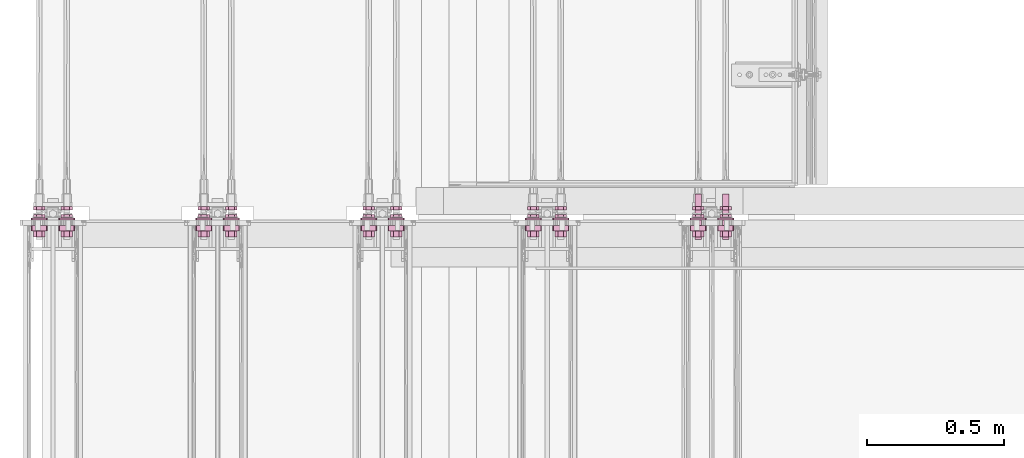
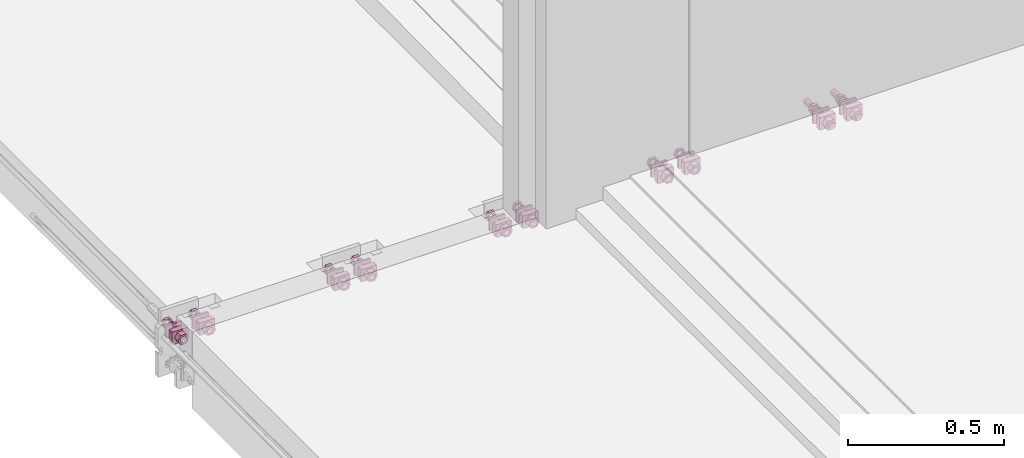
# One storey, part 15 of 17: 52 furnishings.
"""IFC2X3 building model written with IfcOpenShell, lengths in metres."""

import ifcopenshell
import ifcopenshell.guid

model = None  # the IFC model being written
_history = None  # IfcOwnerHistory: only IFC2X3 demands one
_inside = {}  # id of a spatial element -> (the spatial element, [elements in it])
_under = {}  # id of a project, library or spatial element -> (it, [spatial elements below it])
_declared = {}  # id of a project -> (the project, [libraries it declares])
_typed = {}  # id of a type object -> (the type object, [elements of that type])
_made_of = {}  # id of a material, layer set ... -> (it, [elements and type objects made of it])


def new_model(schema):
    """Start an empty IFC model of exactly this schema.

    Asked for "IFC4X3", IfcOpenShell would pick the latest addendum, in which some entities
    have other attributes; the version numbers below select the first issue.
    IFC2X3 requires an IfcOwnerHistory on every rooted entity: one is made here for all.
    """
    global model, _history
    if schema == "IFC4X3":
        model = ifcopenshell.file(schema_version=(4, 3, 0, 0))
    else:
        model = ifcopenshell.file(schema=schema)
    _inside.clear()
    _under.clear()
    _declared.clear()
    _typed.clear()
    _made_of.clear()
    _history = None
    if model.schema == "IFC2X3":
        org = make("IfcOrganization", Name="unknown")
        user = make(
            "IfcPersonAndOrganization",
            ThePerson=make("IfcPerson", FamilyName="unknown"),
            TheOrganization=org,
        )
        app = make(
            "IfcApplication",
            ApplicationDeveloper=org,
            Version="unknown",
            ApplicationFullName="unknown",
            ApplicationIdentifier="unknown",
        )
        _history = make(
            "IfcOwnerHistory",
            OwningUser=user,
            OwningApplication=app,
            ChangeAction="ADDED",
            CreationDate=0,
        )
    return model


def make(cls, **values):
    """One entity of the class cls with the attributes given. An attribute that is None is left unset."""
    return model.create_entity(
        cls, **{name: value for name, value in values.items() if value is not None}
    )


def entity(cls, *values):
    """Any entity or typed value of the class cls, its attributes in the order of the schema. None: left unset."""
    e = model.create_entity(cls)
    for i, value in enumerate(values):
        if value is not None:
            e[i] = value
    return e


def rooted(cls, **values):
    """An entity with a GlobalId (a new one), such as an element, a storey or a relation."""
    return make(cls, GlobalId=ifcopenshell.guid.new(), OwnerHistory=_history, **values)


def si_unit(unit_type, name, prefix=None):
    """IfcSIUnit, for example si_unit("LENGTHUNIT", "METRE", prefix="MILLI")."""
    return make("IfcSIUnit", UnitType=unit_type, Prefix=prefix, Name=name)


def converted_unit(unit_type, name, factor, base, dimensions=None, offset=None):
    """IfcConversionBasedUnit, such as the inch: factor (a typed value) times the base unit."""
    return make(
        "IfcConversionBasedUnit"
        if offset is None
        else "IfcConversionBasedUnitWithOffset",
        ConversionOffset=offset,
        Dimensions=None
        if dimensions is None
        else entity("IfcDimensionalExponents", *dimensions),
        UnitType=unit_type,
        Name=name,
        ConversionFactor=make(
            "IfcMeasureWithUnit", ValueComponent=factor, UnitComponent=base
        ),
    )


def derived_unit(unit_type, elements):
    """IfcDerivedUnit: a product of units, each with its exponent."""
    return make(
        "IfcDerivedUnit",
        Elements=[
            make("IfcDerivedUnitElement", Unit=unit, Exponent=power)
            for unit, power in elements
        ],
        UnitType=unit_type,
    )


def assignment(units):
    """IfcUnitAssignment: the units of a project."""
    return None if units is None else make("IfcUnitAssignment", Units=units)


def point(xyz):
    """IfcCartesianPoint."""
    return None if xyz is None else make("IfcCartesianPoint", Coordinates=xyz)


def direction(xyz):
    """IfcDirection."""
    return None if xyz is None else make("IfcDirection", DirectionRatios=xyz)


def frame(location, z_axis=None, x_axis=None):
    """IfcAxis2Placement3D, a coordinate frame: its origin and axes. An axis left out is left unset."""
    return make(
        "IfcAxis2Placement3D",
        Location=point(location),
        Axis=direction(z_axis),
        RefDirection=direction(x_axis),
    )


def frame_2d(location, x_axis=None):
    """IfcAxis2Placement2D, a coordinate frame in the plane: its origin and x axis."""
    return make(
        "IfcAxis2Placement2D", Location=point(location), RefDirection=direction(x_axis)
    )


def origin():
    """The frame at (0, 0, 0) with its axes left unset."""
    return frame((0.0, 0.0, 0.0))


def place(relative_to, where):
    """IfcLocalPlacement: puts the frame where relative to a parent placement (None: the world)."""
    return make(
        "IfcLocalPlacement", PlacementRelTo=relative_to, RelativePlacement=where
    )


def context(
    kind, dimensions, precision=None, world=None, true_north=None, identifier=None
):
    """IfcGeometricRepresentationContext, for example the 3D "Model" context."""
    return make(
        "IfcGeometricRepresentationContext",
        ContextIdentifier=identifier,
        ContextType=kind,
        CoordinateSpaceDimension=dimensions,
        Precision=precision,
        WorldCoordinateSystem=world,
        TrueNorth=true_north,
    )


def subcontext(parent, identifier, kind, view, scale=None):
    """IfcGeometricRepresentationSubContext, for example "Body" below "Model"."""
    return make(
        "IfcGeometricRepresentationSubContext",
        ContextIdentifier=identifier,
        ContextType=kind,
        ParentContext=parent,
        TargetScale=scale,
        TargetView=view,
    )


def project(units=None, contexts=None):
    """IfcProject with its units and contexts."""
    return rooted(
        "IfcProject",
        Name="project",
        RepresentationContexts=contexts,
        UnitsInContext=assignment(units),
    )


def spatial(cls, under=None, at=None, **own):
    """A site, building, storey or space (cls), placed at a placement, below another one or the project."""
    s = rooted(cls, ObjectPlacement=at, **own)
    if under is not None:
        _under.setdefault(under.id(), (under, []))[1].append(s)
    return s


def polyline(points):
    """IfcPolyline through the points."""
    return make("IfcPolyline", Points=[point(p) for p in points])


def circle_curve(where, radius):
    """IfcCircle in the frame where."""
    return make("IfcCircle", Position=where, Radius=radius)


def parameter(value):
    """IfcParameterValue: where a trimmed curve begins or ends, as a parameter of its basis curve."""
    return model.create_entity("IfcParameterValue", value)


def trimmed(basis, trim1, trim2, sense, master):
    """IfcTrimmedCurve: the piece of a basis curve between two trims."""
    return make(
        "IfcTrimmedCurve",
        BasisCurve=basis,
        Trim1=trim1,
        Trim2=trim2,
        SenseAgreement=sense,
        MasterRepresentation=master,
    )


def segment(curve, same_sense, transition):
    """IfcCompositeCurveSegment."""
    return make(
        "IfcCompositeCurveSegment",
        Transition=transition,
        SameSense=same_sense,
        ParentCurve=curve,
    )


def composite_curve(segments, self_intersect=None):
    """IfcCompositeCurve: segments joined end to end."""
    return make("IfcCompositeCurve", Segments=segments, SelfIntersect=self_intersect)


def profile(cls, at=None, kind="AREA", **sizes):
    """A parametric profile (cls). Its sizes go by their IFC names, for example OverallWidth=200.0."""
    return make(cls, ProfileType=kind, Position=at, **sizes)


def circle(**sizes):
    """IfcCircleProfileDef."""
    return profile("IfcCircleProfileDef", **sizes)


def outline(outer, holes=None, kind="AREA"):
    """IfcArbitraryClosedProfileDef: a profile drawn as a closed curve; with holes, ...WithVoids."""
    if holes is None:
        return make("IfcArbitraryClosedProfileDef", ProfileType=kind, OuterCurve=outer)
    return make(
        "IfcArbitraryProfileDefWithVoids",
        ProfileType=kind,
        OuterCurve=outer,
        InnerCurves=holes,
    )


def extrude(swept, where, along, depth):
    """IfcExtrudedAreaSolid: the profile swept, set in the frame where, extruded along a direction by depth."""
    return make(
        "IfcExtrudedAreaSolid",
        SweptArea=swept,
        Position=where,
        ExtrudedDirection=direction(along),
        Depth=depth,
    )


def shape(context_of_items, identifier, shape_type, items):
    """IfcShapeRepresentation: the items that make up one representation, for example the "Body"."""
    return make(
        "IfcShapeRepresentation",
        ContextOfItems=context_of_items,
        RepresentationIdentifier=identifier,
        RepresentationType=shape_type,
        Items=items,
    )


def source(mapping_origin, context_of_items, identifier, shape_type, items):
    """IfcRepresentationMap: a shape defined once, which mapped items show again and again."""
    return make(
        "IfcRepresentationMap",
        MappingOrigin=mapping_origin,
        MappedRepresentation=shape(context_of_items, identifier, shape_type, items),
    )


def transform(
    local_origin,
    x_axis=None,
    y_axis=None,
    z_axis=None,
    scale=None,
    scale2=None,
    scale3=None,
    uniform=True,
):
    """IfcCartesianTransformationOperator3D, or its non-uniform kind. x_axis, y_axis, z_axis: its Axis1, 2, 3."""
    if uniform:
        return make(
            "IfcCartesianTransformationOperator3D",
            Axis1=direction(x_axis),
            Axis2=direction(y_axis),
            LocalOrigin=point(local_origin),
            Scale=scale,
            Axis3=direction(z_axis),
        )
    return make(
        "IfcCartesianTransformationOperator3DnonUniform",
        Axis1=direction(x_axis),
        Axis2=direction(y_axis),
        LocalOrigin=point(local_origin),
        Scale=scale,
        Axis3=direction(z_axis),
        Scale2=scale2,
        Scale3=scale3,
    )


def mapped(mapping_source, mapping_target):
    """IfcMappedItem: shows the shape of a source again, moved by a transform."""
    return make(
        "IfcMappedItem", MappingSource=mapping_source, MappingTarget=mapping_target
    )


def material(Name=None, Category=None):
    """IfcMaterial."""
    return make("IfcMaterial", Name=Name, Category=Category)


def made_of(thing, what):
    """Note that an element or type object is made of a material, layer set ...; save() writes the relation."""
    if what is not None:
        _made_of.setdefault(what.id(), (what, []))[1].append(thing)
    return thing


def type_object(cls, material=None, **own):
    """A type object (cls), such as IfcWallType, which elements share."""
    return made_of(rooted(cls, **own), material)


def type_shapes(of_type, sources):
    """Give a type object the sources (RepresentationMaps) that its elements show as mapped items."""
    of_type.RepresentationMaps = sources


def element(
    cls,
    number,
    at=None,
    inside=None,
    cuts=None,
    type_object=None,
    material=None,
    context=None,
    identifier="Body",
    shape_type=None,
    held_by="IfcProductDefinitionShape",
    body=None,
    shapes=None,
    **own,
):
    """One element of the class cls, such as IfcWall. Its Tag is "e" and its number.

    at: its placement. inside: the storey or other place that contains it. cuts: it is an
    opening in that element (IfcRelVoidsElement). A single representation is given by context,
    identifier, shape_type and body (its items); several are given by shapes. held_by: the class
    of the entity that holds the representations. save() writes the other relations.
    """
    e = rooted(cls, Tag="e%d" % number, ObjectPlacement=at, **own)
    if body is not None:
        shapes = [shape(context, identifier, shape_type, body)]
    if shapes is not None:
        e.Representation = make(held_by, Representations=shapes)
    if inside is not None:
        _inside.setdefault(inside.id(), (inside, []))[1].append(e)
    if cuts is not None:
        rooted(
            "IfcRelVoidsElement", RelatingBuildingElement=cuts, RelatedOpeningElement=e
        )
    if type_object is not None:
        _typed.setdefault(type_object.id(), (type_object, []))[1].append(e)
    return made_of(e, material)


def aggregate(whole, parts):
    """IfcRelAggregates: a whole, such as a stair, and the parts it consists of."""
    return rooted("IfcRelAggregates", RelatingObject=whole, RelatedObjects=parts)


def save(model, path):
    """Write the relations noted so far, then the file.

    IfcRelAggregates (storeys below a building ...), IfcRelContainedInSpatialStructure (elements
    in a storey), IfcRelDefinesByType, IfcRelAssociatesMaterial and IfcRelDeclares: one each for
    every whole, place, type object, material and project.
    """
    for whole, parts in _under.values():
        aggregate(whole, parts)
    for where, things in _inside.values():
        rooted(
            "IfcRelContainedInSpatialStructure",
            RelatedElements=things,
            RelatingStructure=where,
        )
    for kind, things in _typed.values():
        rooted("IfcRelDefinesByType", RelatedObjects=things, RelatingType=kind)
    for what, things in _made_of.values():
        rooted("IfcRelAssociatesMaterial", RelatedObjects=things, RelatingMaterial=what)
    for by, libraries in _declared.values():
        rooted("IfcRelDeclares", RelatingContext=by, RelatedDefinitions=libraries)
    model.write(path)


model = new_model("IFC2X3")

# Units and contexts
model_context = context("Model", 3, precision=1e-05, world=origin(), true_north=direction((6.123031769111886e-17, 1.0)))
plan_context = context("Plan", 3, precision=1e-05, world=origin(), true_north=direction((6.123031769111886e-17, 1.0)))
body_context = subcontext(model_context, "Body", "Model", "MODEL_VIEW")
ifc_project = project(units=[si_unit("LENGTHUNIT", "METRE"), si_unit("AREAUNIT", "SQUARE_METRE"), converted_unit("PLANEANGLEUNIT", "DEGREE", entity("IfcPlaneAngleMeasure", 0.017453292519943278), si_unit("PLANEANGLEUNIT", "RADIAN"), dimensions=[0, 0, 0, 0, 0, 0, 0]), si_unit("VOLUMEUNIT", "CUBIC_METRE"), derived_unit("THERMALTRANSMITTANCEUNIT", [(si_unit("MASSUNIT", "GRAM", prefix="KILO"), 1), (si_unit("THERMODYNAMICTEMPERATUREUNIT", "KELVIN"), -1), (si_unit("TIMEUNIT", "SECOND"), -3)]), derived_unit("USERDEFINED", [(si_unit("MASSUNIT", "GRAM", prefix="KILO"), 1), (si_unit("THERMODYNAMICTEMPERATUREUNIT", "KELVIN"), -1), (si_unit("TIMEUNIT", "SECOND"), -2)]), derived_unit("THERMALRESISTANCEUNIT", [(si_unit("MASSUNIT", "GRAM", prefix="KILO"), -1), (si_unit("TIMEUNIT", "SECOND"), 3), (si_unit("THERMODYNAMICTEMPERATUREUNIT", "KELVIN"), 1)]), si_unit("PRESSUREUNIT", "PASCAL"), derived_unit("MASSDENSITYUNIT", [(si_unit("MASSUNIT", "GRAM", prefix="KILO"), 1), (si_unit("LENGTHUNIT", "METRE"), -3)]), derived_unit("VAPORPERMEABILITYUNIT", [(si_unit("LENGTHUNIT", "METRE"), -1), (si_unit("TIMEUNIT", "SECOND"), 1)]), derived_unit("USERDEFINED", [(si_unit("MASSUNIT", "GRAM", prefix="KILO"), 1), (si_unit("TIMEUNIT", "SECOND"), -3), (si_unit("LENGTHUNIT", "METRE"), 3), (si_unit("ELECTRICCURRENTUNIT", "AMPERE"), -2)])], contexts=[model_context, plan_context])

# Site, building, storey
site_placement = place(None, origin())
site = spatial("IfcSite", under=ifc_project, at=site_placement, Name="Default", CompositionType="ELEMENT")
building_placement = place(site_placement, origin())
building = spatial("IfcBuilding", under=site, at=building_placement, CompositionType="ELEMENT")
storey_placement = place(building_placement, origin())
storey = spatial("IfcBuildingStorey", under=building, at=storey_placement, Name="L0", CompositionType="ELEMENT", Elevation=0.0)

# Furnishings
ifc_material = material(Name="REC_Acero, S 275JR (Zincado)")
furniture_type_1 = type_object("IfcFurnitureType", Name="REC_P5067:REC_P5067", AssemblyPlace="NOTDEFINED", material=ifc_material)
shared_shape_1 = source(origin(), body_context, "Body", "SweptSolid", [
    extrude(outline(polyline([(0.0014142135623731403, -0.03676955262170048), (0.005656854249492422, -0.03676955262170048), (0.036769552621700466, -0.005656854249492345), (0.036769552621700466, -0.0014142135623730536), (-0.0014142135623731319, 0.03676955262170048), (-0.00565685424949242, 0.036769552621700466), (-0.03676955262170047, 0.005656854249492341), (-0.036769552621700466, 0.001414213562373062), (0.0014142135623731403, -0.03676955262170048)]), holes=[composite_curve([segment(polyline([(0.006717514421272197, 0.01025304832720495), (0.01025304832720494, 0.006717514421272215)]), True, "CONTINUOUS"), segment(trimmed(circle_curve(frame_2d((0.0017677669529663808, -0.0017677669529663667), x_axis=(0.7071067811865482, -0.7071067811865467)), 0.012000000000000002), [parameter(269.9999999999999)], [parameter(90.00000000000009)], True, "PARAMETER"), False, "CONTINUOUS"), segment(polyline([(-0.006717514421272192, -0.010253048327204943), (-0.010253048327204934, -0.006717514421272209)]), True, "CONTINUOUS"), segment(trimmed(circle_curve(frame_2d((-0.0017677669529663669, 0.0017677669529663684), x_axis=(-0.7071067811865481, 0.7071067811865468)), 0.012000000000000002), [parameter(269.9999999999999)], [parameter(90.00000000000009)], True, "PARAMETER"), False, "CONTINUOUS")], self_intersect=False)]), frame((0.0, 0.0, 0.0), z_axis=(0.0, 0.0, 1.0), x_axis=(0.7071067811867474, 0.7071067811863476, 0.0)), (0.0, 0.0, 1.0), 0.019999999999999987),
])
type_shapes(furniture_type_1, [shared_shape_1])
for number, where, z_axis, x_axis, name in (
    (1, (5.135640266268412, 14.774530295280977, -0.05000000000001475), (0.0, -1.0, 0.0), (-1.0, 0.0, 0.0), "REC_P5067:REC_P5067"),
    (2, (5.235640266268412, 14.774530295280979, -0.050000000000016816), (0.0, -1.0, 0.0), (-1.0, 0.0, 0.0), "REC_P5067:REC_P5067"),
    (3, (5.735680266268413, 14.774530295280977, -0.050000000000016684), (0.0, -1.0, 0.0), (-1.0, 0.0, 0.0), "REC_P5067:REC_P5067"),
    (4, (5.835680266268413, 14.774530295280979, -0.050000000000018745), (0.0, -1.0, 0.0), (-1.0, 0.0, 0.0), "REC_P5067:REC_P5067"),
    (5, (6.335720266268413, 14.774530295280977, -0.050000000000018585), (0.0, -1.0, 0.0), (-1.0, 0.0, 0.0), "REC_P5067:REC_P5067"),
    (6, (6.435720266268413, 14.774530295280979, -0.050000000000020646), (0.0, -1.0, 0.0), (-1.0, 0.0, 0.0), "REC_P5067:REC_P5067"),
    (7, (6.935760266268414, 14.774530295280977, -0.05000000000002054), (0.0, -1.0, 0.0), (-1.0, 0.0, 0.0), "REC_P5067:REC_P5067"),
    (8, (7.035760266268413, 14.774530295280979, -0.05000000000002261), (0.0, -1.0, 0.0), (-1.0, 0.0, 0.0), "REC_P5067:REC_P5067"),
    (9, (7.535800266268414, 14.774530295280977, -0.050000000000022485), (0.0, -1.0, 0.0), (-1.0, 0.0, 0.0), "REC_P5067:REC_P5067"),
    (10, (7.635800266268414, 14.774530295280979, -0.05000000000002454), (0.0, -1.0, 0.0), (-1.0, 0.0, 0.0), "REC_P5067:REC_P5067"),
):
    element("IfcFurnishingElement", number, at=place(storey_placement, frame(where, z_axis=z_axis, x_axis=x_axis)), inside=storey, type_object=furniture_type_1, material=ifc_material, Name=name, ObjectType="REC_P5067:REC_P5067", context=body_context, shape_type="MappedRepresentation", body=[
        mapped(shared_shape_1, transform((0.0, 0.0, 0.0), scale=1.0)),
    ])
furniture_type_2 = type_object("IfcFurnitureType", Name="REC_P5068:REC_P5068", AssemblyPlace="NOTDEFINED", material=ifc_material)
shared_shape_2 = source(origin(), body_context, "Body", "SweptSolid", [
    extrude(outline(polyline([(0.0014142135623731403, -0.03676955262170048), (0.005656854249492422, -0.03676955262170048), (0.036769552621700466, -0.005656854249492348), (0.036769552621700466, -0.0014142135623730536), (-0.0014142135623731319, 0.03676955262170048), (-0.00565685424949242, 0.036769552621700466), (-0.03676955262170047, 0.005656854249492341), (-0.036769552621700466, 0.001414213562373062), (0.0014142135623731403, -0.03676955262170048)]), holes=[composite_curve([segment(polyline([(0.006717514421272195, 0.010253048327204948), (0.010253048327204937, 0.006717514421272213)]), True, "CONTINUOUS"), segment(trimmed(circle_curve(frame_2d((0.0017677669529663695, -0.001767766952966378), x_axis=(0.7071067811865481, -0.7071067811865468)), 0.012000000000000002), [parameter(269.9999999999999)], [parameter(90.00000000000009)], True, "PARAMETER"), False, "CONTINUOUS"), segment(polyline([(-0.006717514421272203, -0.010253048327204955), (-0.010253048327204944, -0.006717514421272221)]), True, "CONTINUOUS"), segment(trimmed(circle_curve(frame_2d((-0.0017677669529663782, 0.0017677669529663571), x_axis=(-0.7071067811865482, 0.7071067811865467)), 0.012000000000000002), [parameter(269.9999999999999)], [parameter(90.00000000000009)], True, "PARAMETER"), False, "CONTINUOUS")], self_intersect=False)]), frame((0.0, 0.0, 0.0), z_axis=(0.0, 0.0, 1.0), x_axis=(0.7071067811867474, 0.7071067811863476, 0.0)), (0.0, 0.0, 1.0), 0.008000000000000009),
])
type_shapes(furniture_type_2, [shared_shape_2])
for number, where, z_axis, x_axis, name in (
    (11, (5.135640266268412, 14.794530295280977, -0.05000000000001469), (0.0, 1.0, 0.0), (1.0, 0.0, 0.0), "REC_P5068:REC_P5068"),
    (12, (5.235640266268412, 14.794530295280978, -0.05000000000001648), (0.0, 1.0, 0.0), (1.0, 0.0, 0.0), "REC_P5068:REC_P5068"),
    (13, (5.735680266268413, 14.794530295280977, -0.05000000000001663), (0.0, 1.0, 0.0), (1.0, 0.0, 0.0), "REC_P5068:REC_P5068"),
    (14, (5.835680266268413, 14.794530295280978, -0.05000000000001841), (0.0, 1.0, 0.0), (1.0, 0.0, 0.0), "REC_P5068:REC_P5068"),
    (15, (6.335720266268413, 14.794530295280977, -0.05000000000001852), (0.0, 1.0, 0.0), (1.0, 0.0, 0.0), "REC_P5068:REC_P5068"),
    (16, (6.435720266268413, 14.794530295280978, -0.05000000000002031), (0.0, 1.0, 0.0), (1.0, 0.0, 0.0), "REC_P5068:REC_P5068"),
    (17, (6.935760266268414, 14.794530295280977, -0.050000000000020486), (0.0, 1.0, 0.0), (1.0, 0.0, 0.0), "REC_P5068:REC_P5068"),
    (18, (7.035760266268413, 14.794530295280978, -0.05000000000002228), (0.0, 1.0, 0.0), (1.0, 0.0, 0.0), "REC_P5068:REC_P5068"),
    (19, (7.535800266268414, 14.794530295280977, -0.05000000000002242), (0.0, 1.0, 0.0), (1.0, 0.0, 0.0), "REC_P5068:REC_P5068"),
    (20, (7.635800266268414, 14.794530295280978, -0.050000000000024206), (0.0, 1.0, 0.0), (1.0, 0.0, 0.0), "REC_P5068:REC_P5068"),
):
    element("IfcFurnishingElement", number, at=place(storey_placement, frame(where, z_axis=z_axis, x_axis=x_axis)), inside=storey, type_object=furniture_type_2, material=ifc_material, Name=name, ObjectType="REC_P5068:REC_P5068", context=body_context, shape_type="MappedRepresentation", body=[
        mapped(shared_shape_2, transform((0.0, 0.0, 0.0), scale=1.0)),
    ])
furniture_type_3 = type_object("IfcFurnitureType", Name="REC_TCA_M24:REC_TCA_M24", AssemblyPlace="NOTDEFINED", material=ifc_material)
shared_shape_3 = source(origin(), body_context, "Body", "SweptSolid", [
    extrude(outline(polyline([(-0.010392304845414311, -0.018000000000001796), (0.01039230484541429, -0.018000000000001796), (0.02078460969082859, 0.0), (0.010392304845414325, 0.01800000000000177), (-0.010392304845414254, 0.01800000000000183), (-0.02078460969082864, 0.0), (-0.010392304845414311, -0.018000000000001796)]), holes=[composite_curve([segment(trimmed(circle_curve(frame_2d((0.0, 0.0), x_axis=(-1.0, 0.0)), 0.012), [parameter(3.053332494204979e-13)], [parameter(180.0)], True, "PARAMETER"), False, "CONTINUOUS"), segment(trimmed(circle_curve(frame_2d((0.0, 0.0), x_axis=(-1.0, 0.0)), 0.012), [parameter(179.99999999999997)], [parameter(0.0)], True, "PARAMETER"), False, "CONTINUOUS")], self_intersect=False)]), frame((0.0, 0.0, 0.0), z_axis=(0.0, 0.0, 1.0), x_axis=(-1.0, 0.0, 0.0)), (0.0, 0.0, 1.0), 0.011999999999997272),
])
type_shapes(furniture_type_3, [shared_shape_3])
for number, where, z_axis, x_axis, name in (
    (21, (5.135640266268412, 14.83249868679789, -0.05000000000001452), (0.0, 1.0, 0.0), (1.0, 0.0, 0.0), "REC_TCA_M24:REC_TCA_M24"),
    (22, (5.135640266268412, 14.802530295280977, -0.050000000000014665), (0.0, 1.0, 0.0), (0.4999999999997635, 0.0, 0.8660254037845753), "REC_TCA_M24:REC_TCA_M24"),
    (23, (5.235640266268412, 14.832498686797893, -0.05000000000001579), (0.0, 1.0, 0.0), (1.0, 0.0, 0.0), "REC_TCA_M24:REC_TCA_M24"),
    (24, (5.235640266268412, 14.80253029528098, -0.05000000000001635), (0.0, 1.0, 0.0), (0.4999999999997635, 0.0, 0.8660254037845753), "REC_TCA_M24:REC_TCA_M24"),
    (25, (5.735680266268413, 14.83249868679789, -0.05000000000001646), (0.0, 1.0, 0.0), (1.0, 0.0, 0.0), "REC_TCA_M24:REC_TCA_M24"),
    (26, (5.735680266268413, 14.802530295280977, -0.0500000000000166), (0.0, 1.0, 0.0), (0.4999999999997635, 0.0, 0.8660254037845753), "REC_TCA_M24:REC_TCA_M24"),
    (27, (5.835680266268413, 14.832498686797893, -0.05000000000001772), (0.0, 1.0, 0.0), (1.0, 0.0, 0.0), "REC_TCA_M24:REC_TCA_M24"),
    (28, (5.835680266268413, 14.80253029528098, -0.05000000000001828), (0.0, 1.0, 0.0), (0.4999999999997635, 0.0, 0.8660254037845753), "REC_TCA_M24:REC_TCA_M24"),
    (29, (6.335720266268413, 14.83249868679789, -0.050000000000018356), (0.0, 1.0, 0.0), (1.0, 0.0, 0.0), "REC_TCA_M24:REC_TCA_M24"),
    (30, (6.335720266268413, 14.802530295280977, -0.050000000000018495), (0.0, 1.0, 0.0), (0.4999999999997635, 0.0, 0.8660254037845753), "REC_TCA_M24:REC_TCA_M24"),
    (31, (6.435720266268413, 14.832498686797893, -0.05000000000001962), (0.0, 1.0, 0.0), (1.0, 0.0, 0.0), "REC_TCA_M24:REC_TCA_M24"),
    (32, (6.435720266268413, 14.80253029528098, -0.05000000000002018), (0.0, 1.0, 0.0), (0.4999999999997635, 0.0, 0.8660254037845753), "REC_TCA_M24:REC_TCA_M24"),
    (33, (6.935760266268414, 14.83249868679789, -0.05000000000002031), (0.0, 1.0, 0.0), (1.0, 0.0, 0.0), "REC_TCA_M24:REC_TCA_M24"),
    (34, (6.935760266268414, 14.802530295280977, -0.05000000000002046), (0.0, 1.0, 0.0), (0.4999999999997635, 0.0, 0.8660254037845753), "REC_TCA_M24:REC_TCA_M24"),
    (35, (7.035760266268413, 14.832498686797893, -0.05000000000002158), (0.0, 1.0, 0.0), (1.0, 0.0, 0.0), "REC_TCA_M24:REC_TCA_M24"),
    (36, (7.035760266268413, 14.80253029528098, -0.050000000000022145), (0.0, 1.0, 0.0), (0.4999999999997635, 0.0, 0.8660254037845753), "REC_TCA_M24:REC_TCA_M24"),
    (37, (7.535800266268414, 14.83249868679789, -0.050000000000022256), (0.0, 1.0, 0.0), (1.0, 0.0, 0.0), "REC_TCA_M24:REC_TCA_M24"),
    (38, (7.535800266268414, 14.802530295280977, -0.050000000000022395), (0.0, 1.0, 0.0), (0.4999999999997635, 0.0, 0.8660254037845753), "REC_TCA_M24:REC_TCA_M24"),
    (39, (7.635800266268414, 14.832498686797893, -0.05000000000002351), (0.0, 1.0, 0.0), (1.0, 0.0, 0.0), "REC_TCA_M24:REC_TCA_M24"),
    (40, (7.635800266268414, 14.80253029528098, -0.050000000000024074), (0.0, 1.0, 0.0), (0.4999999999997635, 0.0, 0.8660254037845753), "REC_TCA_M24:REC_TCA_M24"),
):
    element("IfcFurnishingElement", number, at=place(storey_placement, frame(where, z_axis=z_axis, x_axis=x_axis)), inside=storey, type_object=furniture_type_3, material=ifc_material, Name=name, ObjectType="REC_TCA_M24:REC_TCA_M24", context=body_context, shape_type="MappedRepresentation", body=[
        mapped(shared_shape_3, transform((0.0, 0.0, 0.0), scale=1.0)),
    ])
furniture_type_4 = type_object("IfcFurnitureType", Name="REC_TCA_M24 8.8:REC_TCA_M24 8.8", AssemblyPlace="NOTDEFINED", material=ifc_material)
shared_shape_4 = source(origin(), body_context, "Body", "SweptSolid", [
    extrude(outline(polyline([(-0.010392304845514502, -0.01800000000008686), (0.010392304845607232, -0.018000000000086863), (0.020784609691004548, 0.0), (0.010392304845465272, 0.018000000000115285), (-0.010392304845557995, 0.018000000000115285), (-0.020784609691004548, 0.0), (-0.010392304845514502, -0.01800000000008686)]), holes=[composite_curve([segment(trimmed(circle_curve(frame_2d((0.0, 0.0), x_axis=(0.49999999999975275, 0.8660254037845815)), 0.012), [parameter(3.5622212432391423e-13)], [parameter(179.99999999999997)], True, "PARAMETER"), False, "CONTINUOUS"), segment(trimmed(circle_curve(frame_2d((0.0, 0.0), x_axis=(0.49999999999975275, 0.8660254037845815)), 0.012), [parameter(179.99999999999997)], [parameter(0.0)], True, "PARAMETER"), False, "CONTINUOUS")], self_intersect=False)]), frame((0.0, 0.0, 0.0), z_axis=(0.0, 0.0, 1.0), x_axis=(0.49999999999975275, -0.8660254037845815, 0.0)), (0.0, 0.0, 1.0), 0.021500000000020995),
])
type_shapes(furniture_type_4, [shared_shape_4])
for number, where, z_axis, x_axis, name in (
    (41, (5.135640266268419, 14.754530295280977, -0.05000000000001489), (0.0, -1.0, 0.0), (1.0, 0.0, 0.0), "REC_TCA_M24 8.8:REC_TCA_M24 8.8"),
    (42, (5.23564026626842, 14.75453029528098, -0.050000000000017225), (0.0, -1.0, 0.0), (1.0, 0.0, 0.0), "REC_TCA_M24 8.8:REC_TCA_M24 8.8"),
    (43, (5.73568026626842, 14.754530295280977, -0.05000000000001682), (0.0, -1.0, 0.0), (1.0, 0.0, 0.0), "REC_TCA_M24 8.8:REC_TCA_M24 8.8"),
    (44, (5.83568026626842, 14.75453029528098, -0.050000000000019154), (0.0, -1.0, 0.0), (1.0, 0.0, 0.0), "REC_TCA_M24 8.8:REC_TCA_M24 8.8"),
    (45, (6.335720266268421, 14.754530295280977, -0.05000000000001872), (0.0, -1.0, 0.0), (1.0, 0.0, 0.0), "REC_TCA_M24 8.8:REC_TCA_M24 8.8"),
    (46, (6.4357202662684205, 14.75453029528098, -0.05000000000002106), (0.0, -1.0, 0.0), (1.0, 0.0, 0.0), "REC_TCA_M24 8.8:REC_TCA_M24 8.8"),
    (47, (6.935760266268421, 14.754530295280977, -0.05000000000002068), (0.0, -1.0, 0.0), (1.0, 0.0, 0.0), "REC_TCA_M24 8.8:REC_TCA_M24 8.8"),
    (48, (7.035760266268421, 14.75453029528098, -0.050000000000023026), (0.0, -1.0, 0.0), (1.0, 0.0, 0.0), "REC_TCA_M24 8.8:REC_TCA_M24 8.8"),
    (49, (7.535800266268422, 14.754530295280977, -0.05000000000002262), (0.0, -1.0, 0.0), (1.0, 0.0, 0.0), "REC_TCA_M24 8.8:REC_TCA_M24 8.8"),
    (50, (7.635800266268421, 14.75453029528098, -0.050000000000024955), (0.0, -1.0, 0.0), (1.0, 0.0, 0.0), "REC_TCA_M24 8.8:REC_TCA_M24 8.8"),
):
    element("IfcFurnishingElement", number, at=place(storey_placement, frame(where, z_axis=z_axis, x_axis=x_axis)), inside=storey, type_object=furniture_type_4, material=ifc_material, Name=name, ObjectType="REC_TCA_M24 8.8:REC_TCA_M24 8.8", context=body_context, shape_type="MappedRepresentation", body=[
        mapped(shared_shape_4, transform((0.0, 0.0, 0.0), scale=1.0)),
    ])
furniture_type_5 = type_object("IfcFurnitureType", Name="REC__VRM24165C88EQM:VRM24165C88EQM", AssemblyPlace="NOTDEFINED", material=ifc_material)
shared_shape_5 = source(origin(), body_context, "Body", "SweptSolid", [
    extrude(circle(Radius=0.012000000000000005, at=frame_2d((0.0, -1.9386534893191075e-17), x_axis=(1.0, 0.0))), origin(), (0.0, 0.0, 1.0), 0.165),
])
type_shapes(furniture_type_5, [shared_shape_5])
for number, where, z_axis, x_axis in (
    (51, (7.535800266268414, 14.889530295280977, -0.05000000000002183), (0.0, -1.0, 0.0), (1.0, 0.0, 0.0)),
    (52, (7.635800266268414, 14.889530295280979, -0.050000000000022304), (0.0, -1.0, 0.0), (1.0, 0.0, 0.0)),
):
    element("IfcFurnishingElement", number, at=place(storey_placement, frame(where, z_axis=z_axis, x_axis=x_axis)), inside=storey, type_object=furniture_type_5, material=ifc_material, Name="REC__VRM24165C88EQM:VRM24165C88EQM", ObjectType="REC__VRM24165C88EQM:VRM24165C88EQM", context=body_context, shape_type="MappedRepresentation", body=[
        mapped(shared_shape_5, transform((0.0, 0.0, 0.0), scale=1.0)),
    ])

save(model, "model.ifc")
